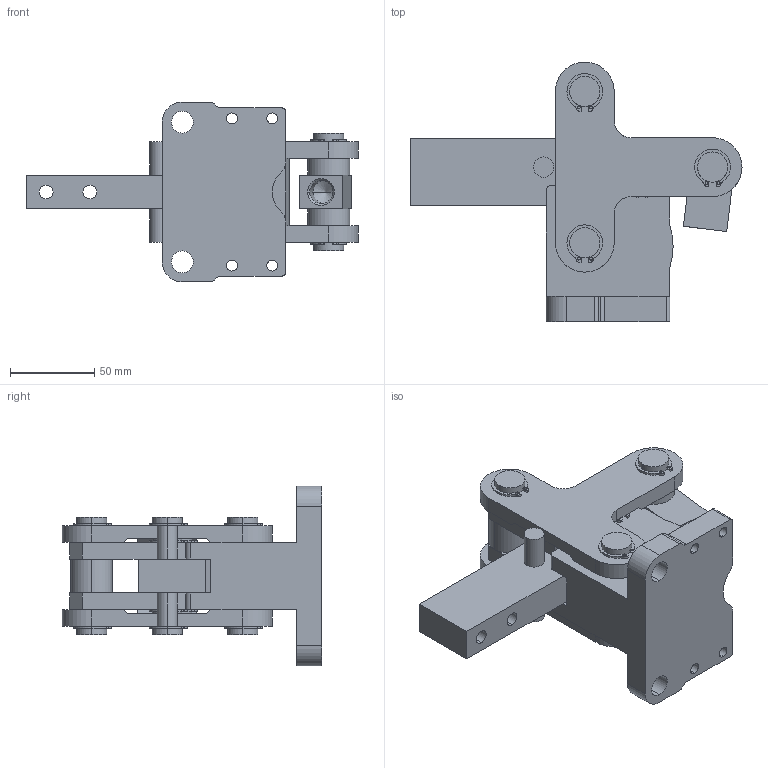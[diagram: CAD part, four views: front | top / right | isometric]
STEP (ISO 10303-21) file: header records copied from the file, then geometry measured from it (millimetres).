
FILE_DESCRIPTION (( 'STEP AP203' ), '1' );
FILE_NAME ('46200.W0006.step', '2016-05-09T10:08:55', ( 'User' ), ( '' ), 'SwSTEP 2.0', 'SolidWorks 2009', '' );
FILE_SCHEMA (( 'CONFIG_CONTROL_DESIGN' ));
Length unit declared in the file: millimetre
Products named in the file (1): 46200.W0006
Bounding box: 197.5 x 154.5 x 107 mm (x, y, z)
Volume: 608144.6 mm3; surface area: 133094.2 mm2
Topology: 5 solids, 5 shells, 405 faces, 1047 edges, 693 vertices
Faces by surface type: cylinder 225, plane 176, cone 4
Entity records: 12660 total; most frequent: DIRECTION 2325, CARTESIAN_POINT 2156, ORIENTED_EDGE 2090, EDGE_CURVE 1045, AXIS2_PLACEMENT_3D 878, VERTEX_POINT 693, VECTOR 569, LINE 569
